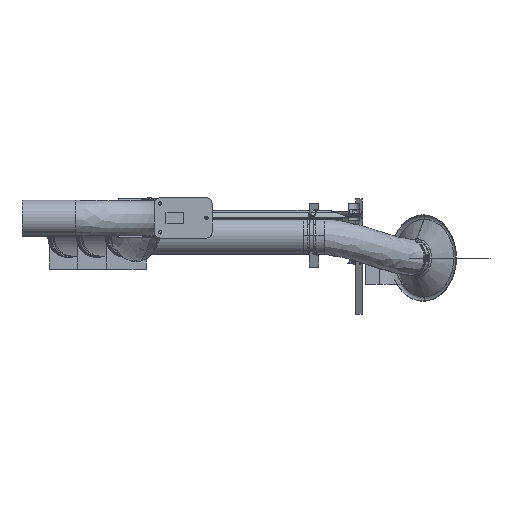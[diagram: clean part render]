
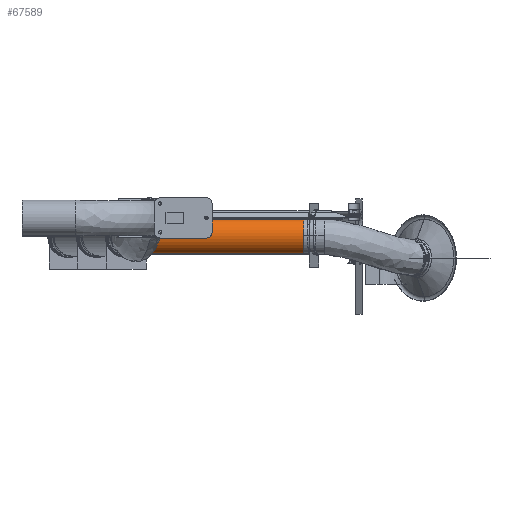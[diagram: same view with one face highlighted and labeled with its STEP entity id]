
A CAD part, left-side view. The second image highlights one B-rep face of the part: STEP entity #67589.
In plain terms, the highlighted free-form (B-spline) face has degree [3, 3] with [7, 6] control points.
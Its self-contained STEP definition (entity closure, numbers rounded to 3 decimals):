
#66611=CARTESIAN_POINT('',(1152.215,-562.358,-59.5));
#66612=DIRECTION('',(0.,1.,0.));
#66613=DIRECTION('',(-0.165,0.,-0.986));
#66614=AXIS2_PLACEMENT_3D('',#66611,#66612,#66613);
#66619=CARTESIAN_POINT('',(1141.91,-562.358,
-121.145));
#66620=CARTESIAN_POINT('',(1141.91,-485.691,
-121.145));
#66621=CARTESIAN_POINT('',(1141.91,-332.358,
-121.145));
#66622=CARTESIAN_POINT('',(1141.91,-102.358,
-121.145));
#66623=CARTESIAN_POINT('',(1141.91,50.975,
-121.145));
#66624=CARTESIAN_POINT('',(1141.91,127.642,
-121.145));
#66637=CARTESIAN_POINT('',(1162.52,-562.358,
2.145));
#66638=CARTESIAN_POINT('',(1162.52,-485.691,
2.145));
#66639=CARTESIAN_POINT('',(1162.52,-332.358,
2.145));
#66640=CARTESIAN_POINT('',(1162.52,-102.358,
2.145));
#66641=CARTESIAN_POINT('',(1162.52,50.975,2.145));
#66642=CARTESIAN_POINT('',(1162.52,127.642,2.145));
#66718=CARTESIAN_POINT('',(1152.215,127.642,-59.5));
#66719=DIRECTION('',(0.,1.,0.));
#66720=DIRECTION('',(-0.165,0.,-0.986));
#66721=AXIS2_PLACEMENT_3D('',#66718,#66719,#66720);
#67214=CARTESIAN_POINT('',(1162.52,-562.358,
2.145));
#67215=CARTESIAN_POINT('',(1141.91,-562.358,
-121.145));
#67216=VERTEX_POINT('',#67214);
#67217=VERTEX_POINT('',#67215);
#67218=CARTESIAN_POINT('',(1162.52,127.642,2.145));
#67219=CARTESIAN_POINT('',(1141.91,127.642,
-121.145));
#67220=VERTEX_POINT('',#67218);
#67221=VERTEX_POINT('',#67219);
#67537=CARTESIAN_POINT('',(1145.801,-576.158,
-121.67));
#67538=CARTESIAN_POINT('',(1145.801,-571.558,
-121.67));
#67539=CARTESIAN_POINT('',(1145.801,-336.958,
-121.67));
#67540=CARTESIAN_POINT('',(1145.801,-97.758,
-121.67));
#67541=CARTESIAN_POINT('',(1145.801,136.842,
-121.67));
#67542=CARTESIAN_POINT('',(1145.801,141.442,
-121.67));
#67543=CARTESIAN_POINT('',(1107.541,-576.158,
-117.723));
#67544=CARTESIAN_POINT('',(1107.541,-571.558,
-117.723));
#67545=CARTESIAN_POINT('',(1107.541,-336.958,
-117.723));
#67546=CARTESIAN_POINT('',(1107.541,-97.758,
-117.723));
#67547=CARTESIAN_POINT('',(1107.541,136.842,
-117.723));
#67548=CARTESIAN_POINT('',(1107.541,141.442,
-117.723));
#67549=CARTESIAN_POINT('',(1084.228,-576.158,
-87.131));
#67550=CARTESIAN_POINT('',(1084.228,-571.558,
-87.131));
#67551=CARTESIAN_POINT('',(1084.228,-336.958,
-87.131));
#67552=CARTESIAN_POINT('',(1084.228,-97.758,
-87.131));
#67553=CARTESIAN_POINT('',(1084.228,136.842,
-87.131));
#67554=CARTESIAN_POINT('',(1084.228,141.442,
-87.131));
#67555=CARTESIAN_POINT('',(1090.57,-576.158,
-49.195));
#67556=CARTESIAN_POINT('',(1090.57,-571.558,
-49.195));
#67557=CARTESIAN_POINT('',(1090.57,-336.958,
-49.195));
#67558=CARTESIAN_POINT('',(1090.57,-97.758,
-49.195));
#67559=CARTESIAN_POINT('',(1090.57,136.842,
-49.195));
#67560=CARTESIAN_POINT('',(1090.57,141.442,
-49.195));
#67561=CARTESIAN_POINT('',(1096.912,-576.158,
-11.259));
#67562=CARTESIAN_POINT('',(1096.912,-571.558,
-11.259));
#67563=CARTESIAN_POINT('',(1096.912,-336.958,
-11.259));
#67564=CARTESIAN_POINT('',(1096.912,-97.758,
-11.259));
#67565=CARTESIAN_POINT('',(1096.912,136.842,
-11.259));
#67566=CARTESIAN_POINT('',(1096.912,141.442,
-11.259));
#67567=CARTESIAN_POINT('',(1128.907,-576.158,
10.087));
#67568=CARTESIAN_POINT('',(1128.907,-571.558,
10.087));
#67569=CARTESIAN_POINT('',(1128.907,-336.958,
10.087));
#67570=CARTESIAN_POINT('',(1128.907,-97.758,
10.087));
#67571=CARTESIAN_POINT('',(1128.907,136.842,10.087));
#67572=CARTESIAN_POINT('',(1128.907,141.442,10.087));
#67573=CARTESIAN_POINT('',(1166.37,-576.158,
1.376));
#67574=CARTESIAN_POINT('',(1166.37,-571.558,
1.376));
#67575=CARTESIAN_POINT('',(1166.37,-336.958,
1.376));
#67576=CARTESIAN_POINT('',(1166.37,-97.758,
1.376));
#67577=CARTESIAN_POINT('',(1166.37,136.842,1.376));
#67578=CARTESIAN_POINT('',(1166.37,141.442,1.376));
#67579=(BOUNDED_SURFACE()B_SPLINE_SURFACE(3,3,((#67537,#67538,#67539,#67540,
#67541,#67542),(#67543,#67544,#67545,#67546,#67547,#67548),(#67549,#67550,
#67551,#67552,#67553,#67554),(#67555,#67556,#67557,#67558,#67559,#67560),
(#67561,#67562,#67563,#67564,#67565,#67566),(#67567,#67568,#67569,#67570,#67571,
#67572),(#67573,#67574,#67575,#67576,#67577,#67578)),.UNSPECIFIED.,.F.,.F.,.F.)B_SPLINE_SURFACE_WITH_KNOTS((4,3,4),(4,1,1,4),(0.,1.,2.),(-0.02,0.,1.,
1.02),.UNSPECIFIED.)GEOMETRIC_REPRESENTATION_ITEM()RATIONAL_B_SPLINE_SURFACE((
(1.187,1.187,1.187,1.187,
1.187,1.187),(0.938,0.938,
0.938,0.938,0.938,0.938),(
0.938,0.938,0.938,0.938,
0.938,0.938),(1.187,1.187,
1.187,1.187,1.187,1.187),(
0.938,0.938,0.938,0.938,
0.938,0.938),(0.938,0.938,
0.938,0.938,0.938,0.938),(
1.187,1.187,1.187,1.187,
1.187,1.187)))REPRESENTATION_ITEM('')SURFACE());
#67580=ORIENTED_EDGE('',*,*,#67524,.F.);
#67582=ORIENTED_EDGE('',*,*,#67581,.T.);
#67584=ORIENTED_EDGE('',*,*,#67583,.T.);
#67586=ORIENTED_EDGE('',*,*,#67585,.F.);
#67587=EDGE_LOOP('',(#67580,#67582,#67584,#67586));
#67588=FACE_OUTER_BOUND('',#67587,.F.);
#66615=CIRCLE('',#66614,62.5);
#66625=B_SPLINE_CURVE_WITH_KNOTS('',3,(#66619,#66620,#66621,#66622,#66623,
#66624),.UNSPECIFIED.,.F.,.F.,(4,1,1,4),(0.,0.333,
0.667,1.),.UNSPECIFIED.);
#66643=B_SPLINE_CURVE_WITH_KNOTS('',3,(#66637,#66638,#66639,#66640,#66641,
#66642),.UNSPECIFIED.,.F.,.F.,(4,1,1,4),(0.,0.333,
0.667,1.),.UNSPECIFIED.);
#66722=CIRCLE('',#66721,62.5);
#67524=EDGE_CURVE('',#67217,#67216,#66615,.T.);
#67581=EDGE_CURVE('',#67217,#67221,#66625,.T.);
#67583=EDGE_CURVE('',#67221,#67220,#66722,.T.);
#67585=EDGE_CURVE('',#67216,#67220,#66643,.T.);
#67589=ADVANCED_FACE('',(#67588),#67579,.T.);
